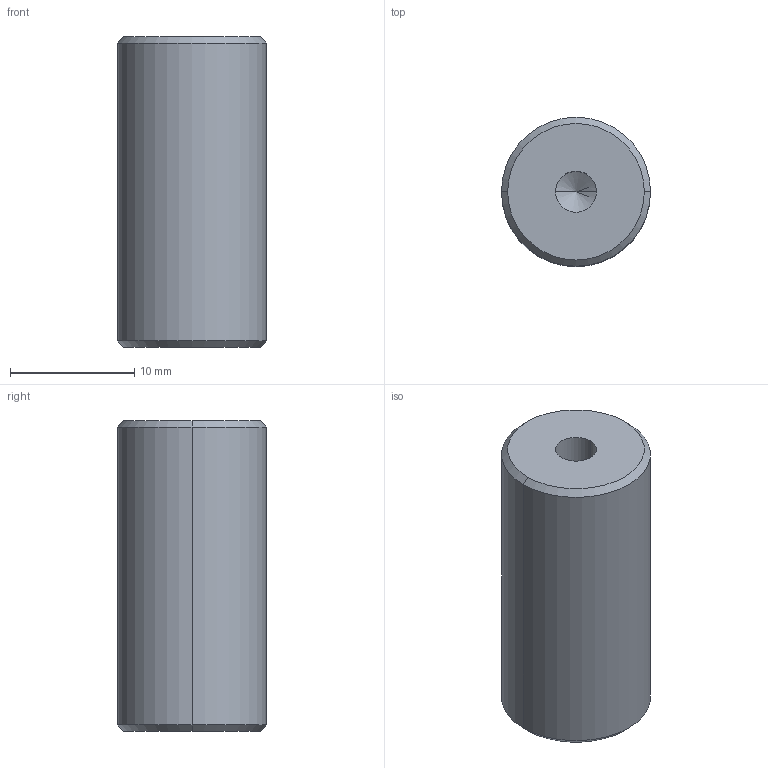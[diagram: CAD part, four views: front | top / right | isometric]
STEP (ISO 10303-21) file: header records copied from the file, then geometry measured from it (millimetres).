
FILE_DESCRIPTION (( 'STEP AP203' ), '1' );
FILE_NAME ('PHSP12-1C.step', '2019-05-09T09:07:42', ( '' ), ( '' ), 'SwSTEP 2.0', 'SolidWorks 2016', '' );
FILE_SCHEMA (( 'CONFIG_CONTROL_DESIGN' ));
Length unit declared in the file: millimetre
Products named in the file (1): PHSP12-1C
Bounding box: 12 x 12 x 25 mm (x, y, z)
Volume: 2639.8 mm3; surface area: 1358.2 mm2
Topology: 1 solids, 1 shells, 16 faces, 34 edges, 18 vertices
Faces by surface type: cone 8, cylinder 6, plane 2
Entity records: 479 total; most frequent: DIRECTION 80, CARTESIAN_POINT 65, ORIENTED_EDGE 60, AXIS2_PLACEMENT_3D 33, EDGE_CURVE 30, EDGE_LOOP 18, VERTEX_POINT 18, ADVANCED_FACE 16
